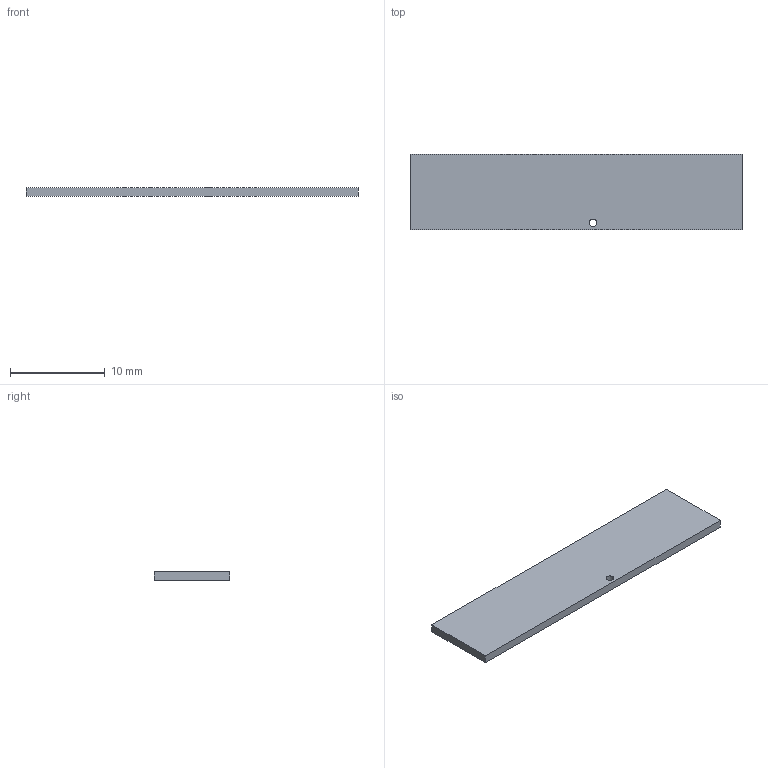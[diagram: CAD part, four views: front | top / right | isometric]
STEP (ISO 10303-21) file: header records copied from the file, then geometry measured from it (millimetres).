
FILE_DESCRIPTION(('Open CASCADE Model'),'2;1');
FILE_NAME('Open CASCADE Shape Model','2018-02-23T15:13:38',('Author'),( 'Open CASCADE'),'Open CASCADE STEP processor 6.8','Open CASCADE 6.8' ,'Unknown');
FILE_SCHEMA(('AUTOMOTIVE_DESIGN_CC2 { 1 2 10303 214 -1 1 5 4 }'));
Length unit declared in the file: millimetre
Products named in the file (2): PCB; Board
Assembly tree (1 placements, depth 2):
  PCB
    Board
Bounding box: 35 x 8 x 0.89 mm (x, y, z)
Volume: 249.2 mm3; surface area: 637.9 mm2
Topology: 1 solids, 1 shells, 7 faces, 15 edges, 10 vertices
Faces by surface type: plane 6, cylinder 1
Full cylindrical faces by diameter (mm): 0.8 x1
Entity records: 429 total; most frequent: DIRECTION 65, CARTESIAN_POINT 64, LINE 41, VECTOR 41, ORIENTED_EDGE 30, PCURVE 30, DEFINITIONAL_REPRESENTATION 30, EDGE_CURVE 15
